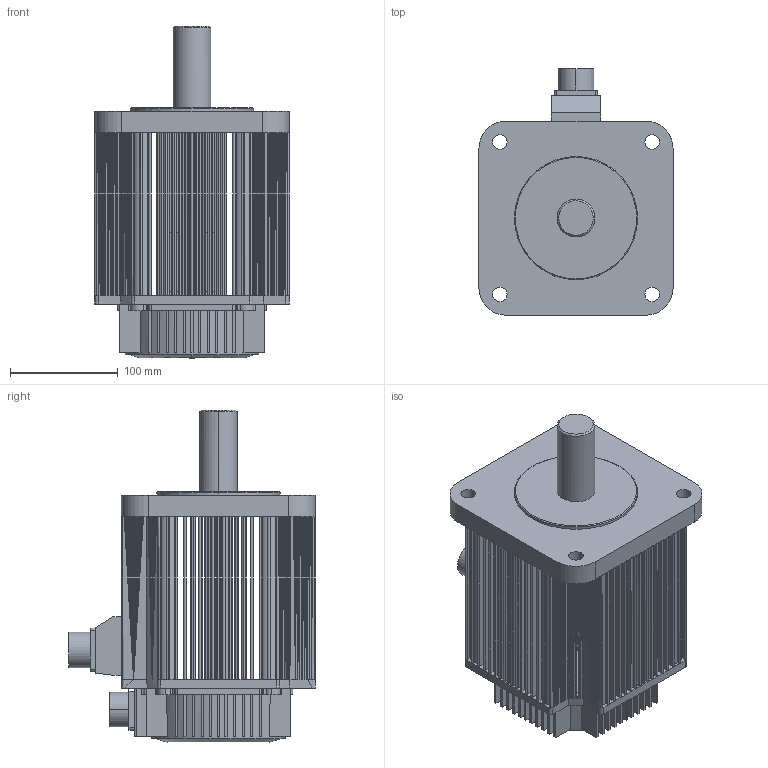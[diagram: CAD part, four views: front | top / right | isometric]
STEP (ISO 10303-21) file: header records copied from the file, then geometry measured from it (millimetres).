
FILE_DESCRIPTION (( 'STEP AP203' ), '1' );
FILE_NAME ('UMM-0030EA-B3_UMM-0030CA-B3.STEP', '2019-04-18T07:11:42', ( '' ), ( '' ), 'SwSTEP 2.0', 'SolidWorks 2017', '' );
FILE_SCHEMA (( 'CONFIG_CONTROL_DESIGN' ));
Length unit declared in the file: millimetre
Products named in the file (1): UMM-0030EA-B3_UMM-0030CA-B3
Bounding box: 180 x 229 x 308 mm (x, y, z)
Surface area: 361306.1 mm2 (no closed solid volume)
Topology: 0 solids, 4 shells, 1205 faces, 3290 edges, 2065 vertices
Faces by surface type: plane 714, cylinder 481, cone 8, bspline 2
Entity records: 41165 total; most frequent: CARTESIAN_POINT 13427, ORIENTED_EDGE 6320, DIRECTION 4647, EDGE_CURVE 3290, VERTEX_POINT 2065, VECTOR 1709, LINE 1709, AXIS2_PLACEMENT_3D 1469
